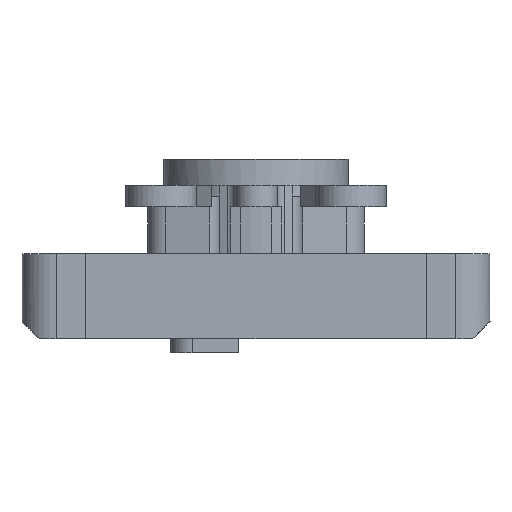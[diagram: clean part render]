
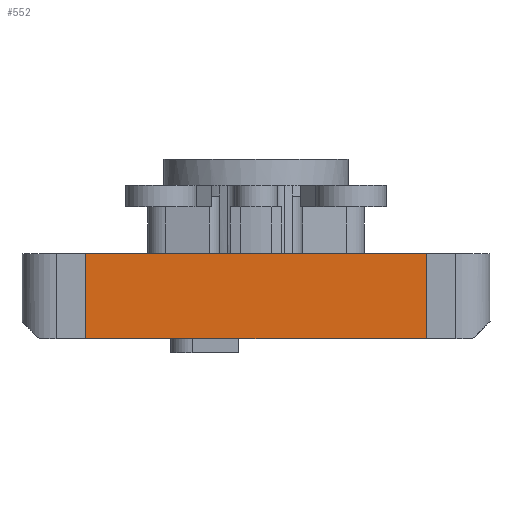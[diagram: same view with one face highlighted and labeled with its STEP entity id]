
A CAD part, front view. The second image highlights one B-rep face of the part: STEP entity #552.
In plain terms, the highlighted planar face has unit normal (0, -1, 0).
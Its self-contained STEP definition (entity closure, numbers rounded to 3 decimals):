
#552=ADVANCED_FACE('',(#847),#3024,.T.);
#847=FACE_OUTER_BOUND('',#1148,.F.);
#1148=EDGE_LOOP('',(#1526,#1527,#1528,#1529));
#1526=ORIENTED_EDGE('',*,*,#5443,.F.);
#1527=ORIENTED_EDGE('',*,*,#5488,.T.);
#1528=ORIENTED_EDGE('',*,*,#5490,.T.);
#1529=ORIENTED_EDGE('',*,*,#5487,.T.);
#3024=PLANE('',#7721);
#5443=EDGE_CURVE('',#7218,#7217,#6119,.T.);
#5487=EDGE_CURVE('',#7168,#7217,#6138,.T.);
#5488=EDGE_CURVE('',#7218,#7169,#6139,.T.);
#5490=EDGE_CURVE('',#7169,#7168,#6141,.T.);
#6119=LINE('',#10343,#6549);
#6138=LINE('',#10433,#6568);
#6139=LINE('',#10434,#6569);
#6141=LINE('',#10436,#6571);
#6549=VECTOR('',#8288,24.);
#6568=VECTOR('',#8347,6.);
#6569=VECTOR('',#8348,6.);
#6571=VECTOR('',#8350,24.);
#7168=VERTEX_POINT('',#9982);
#7169=VERTEX_POINT('',#9983);
#7217=VERTEX_POINT('',#10031);
#7218=VERTEX_POINT('',#10032);
#7721=AXIS2_PLACEMENT_3D('',#10982,#9060,#9061);
#8288=DIRECTION('',(-1.,0.,0.));
#8347=DIRECTION('',(0.,0.,1.));
#8348=DIRECTION('',(0.,0.,-1.));
#8350=DIRECTION('',(-1.,0.,0.));
#9060=DIRECTION('',(0.,-1.,0.));
#9061=DIRECTION('',(-1.,0.,0.));
#9982=CARTESIAN_POINT('',(186.851,1.05,276.775));
#9983=CARTESIAN_POINT('',(210.851,1.05,276.775));
#10031=CARTESIAN_POINT('',(186.851,1.05,282.775));
#10032=CARTESIAN_POINT('',(210.851,1.05,282.775));
#10343=CARTESIAN_POINT('',(210.851,1.05,282.775));
#10433=CARTESIAN_POINT('',(186.851,1.05,276.775));
#10434=CARTESIAN_POINT('',(210.851,1.05,282.775));
#10436=CARTESIAN_POINT('',(210.851,1.05,276.775));
#10982=CARTESIAN_POINT('',(211.091,1.05,283.015));
